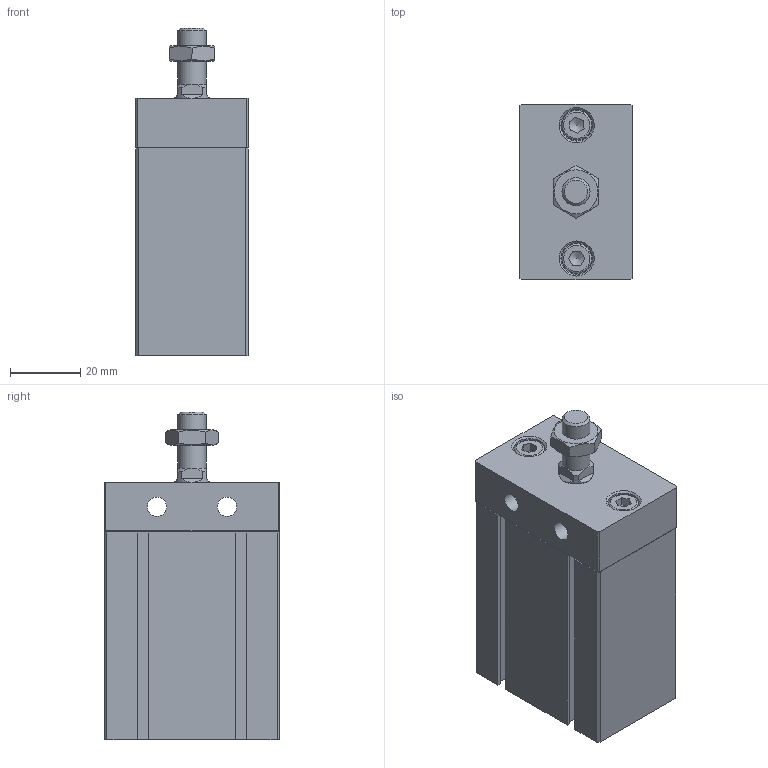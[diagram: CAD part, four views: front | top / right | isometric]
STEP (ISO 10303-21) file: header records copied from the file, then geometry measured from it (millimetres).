
FILE_DESCRIPTION((''),'2;1');
FILE_NAME('I:\3D電子目錄\氣缸\ND\ND\ND25-B\ND25x30-B.stp','2007-07-24T19:23:43',('Administrator'),(''),'Autodesk Inventor 11','Autodesk Inventor 11','');
FILE_SCHEMA(('AUTOMOTIVE_DESIGN { 1 0 10303 214 1 1 1 1 }'));
Length unit declared in the file: millimetre
Products named in the file (4): ND25-B; ISO 4762 M5 x 12; R 形環 28
Assembly tree (4 placements, depth 2):
  ND25-B
    ND25-B
    ISO 4762 M5 x 12  x2
    R 形環 28
Bounding box: 32 x 50.1 x 93.5 mm (x, y, z)
Volume: 109394 mm3; surface area: 23770.2 mm2
Topology: 5 solids, 5 shells, 177 faces, 411 edges, 261 vertices
Faces by surface type: plane 113, cylinder 27, cone 20, bspline 14, torus 3
Full cylindrical faces by diameter (mm): 1.5 x2, 1.9 x2, 5 x2, 5.5 x2, 8 x2, 8.5 x2, 9 x2, 17 x1, 28 x1, 29.4 x1
Entity records: 4577 total; most frequent: CARTESIAN_POINT 975, DIRECTION 714, ORIENTED_EDGE 668, EDGE_CURVE 334, AXIS2_PLACEMENT_3D 249, VERTEX_POINT 236, EDGE_LOOP 228, VECTOR 216
